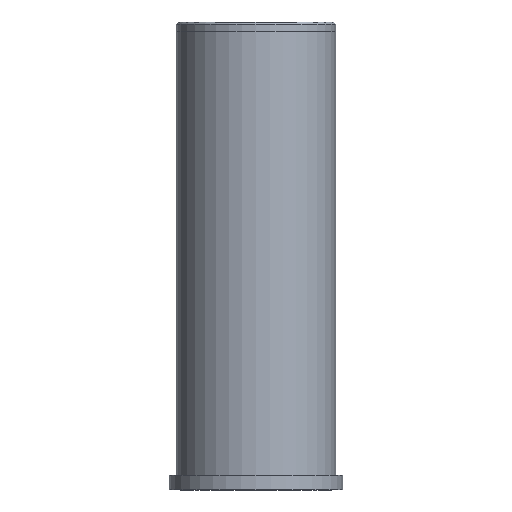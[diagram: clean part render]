
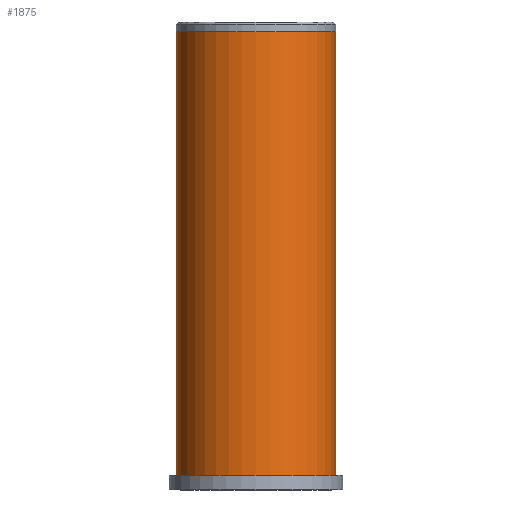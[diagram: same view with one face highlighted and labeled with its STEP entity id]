
A CAD part, front view. The second image highlights one B-rep face of the part: STEP entity #1875.
In plain terms, the highlighted cylindrical face has radius 25.406 mm (diameter 50.813 mm), a full revolution.
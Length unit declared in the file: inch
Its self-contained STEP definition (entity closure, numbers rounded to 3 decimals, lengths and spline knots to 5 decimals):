
#57 = EDGE_CURVE ( 'NONE', #1745, #1745, #2552, .T. ) ;
#412 = DIRECTION ( 'NONE',  ( 0., 0., -1. ) ) ;
#928 = CARTESIAN_POINT ( 'NONE',  ( -1.00025, 0., 0.187 ) ) ;
#961 = DIRECTION ( 'NONE',  ( -1., 0., 0. ) ) ;
#994 = DIRECTION ( 'NONE',  ( -1., 0., 0. ) ) ;
#1569 = AXIS2_PLACEMENT_3D ( 'NONE', #3490, #3128, #961 ) ;
#1745 = VERTEX_POINT ( 'NONE', #928 ) ;
#1875 = ADVANCED_FACE ( 'NONE', ( #2381, #3054 ), #4074, .T. ) ;
#2045 = ORIENTED_EDGE ( 'NONE', *, *, #57, .F. ) ;
#2381 = FACE_OUTER_BOUND ( 'NONE', #3910, .T. ) ;
#2552 = CIRCLE ( 'NONE', #3139, 1.00025 ) ;
#2565 = CARTESIAN_POINT ( 'NONE',  ( 0., 0., 0.187 ) ) ;
#2927 = DIRECTION ( 'NONE',  ( -1., 0., 0. ) ) ;
#3054 = FACE_OUTER_BOUND ( 'NONE', #4404, .T. ) ;
#3128 = DIRECTION ( 'NONE',  ( 0., 0., -1. ) ) ;
#3139 = AXIS2_PLACEMENT_3D ( 'NONE', #2565, #412, #2927 ) ;
#3490 = CARTESIAN_POINT ( 'NONE',  ( 0., 0., 5.75 ) ) ;
#3566 = AXIS2_PLACEMENT_3D ( 'NONE', #4572, #4248, #994 ) ;
#3578 = CARTESIAN_POINT ( 'NONE',  ( -1.00025, 0., 5.75 ) ) ;
#3795 = CIRCLE ( 'NONE', #1569, 1.00025 ) ;
#3910 = EDGE_LOOP ( 'NONE', ( #2045 ) ) ;
#4074 = CYLINDRICAL_SURFACE ( 'NONE', #3566, 1.00025 ) ;
#4248 = DIRECTION ( 'NONE',  ( 0., 0., -1. ) ) ;
#4404 = EDGE_LOOP ( 'NONE', ( #4523 ) ) ;
#4522 = EDGE_CURVE ( 'NONE', #4575, #4575, #3795, .T. ) ;
#4523 = ORIENTED_EDGE ( 'NONE', *, *, #4522, .T. ) ;
#4572 = CARTESIAN_POINT ( 'NONE',  ( 0., 0., 0. ) ) ;
#4575 = VERTEX_POINT ( 'NONE', #3578 ) ;
